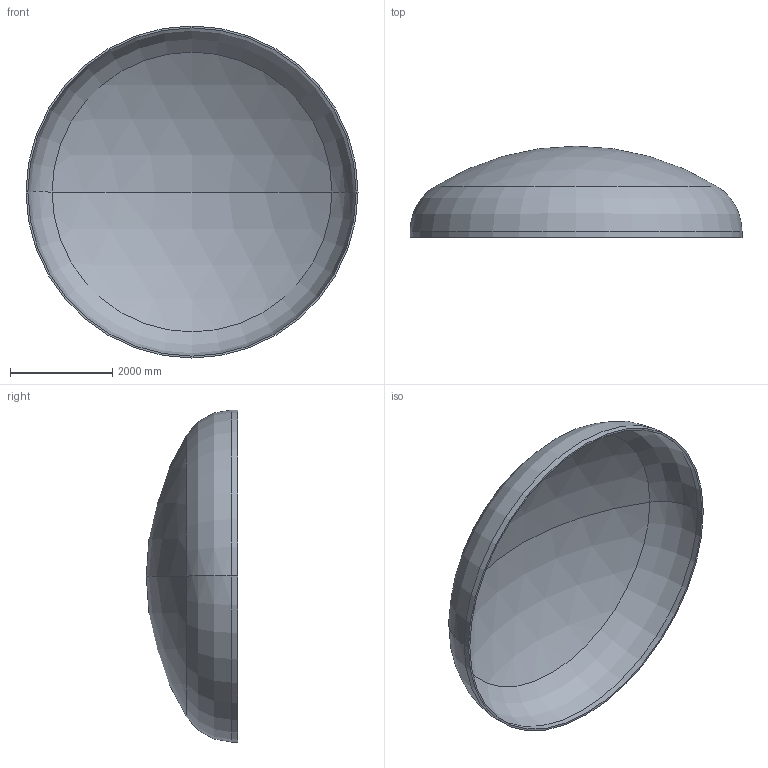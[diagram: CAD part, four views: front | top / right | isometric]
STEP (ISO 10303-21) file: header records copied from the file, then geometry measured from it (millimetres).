
FILE_DESCRIPTION (( 'STEP AP203' ), '1' );
FILE_NAME ('DIN 28013 Korbbogenform_-_Boden DIN 28013 - 6500 x 120 - I - s=37.step', '2016-07-04T10:41:35', ( '' ), ( '' ), 'SwSTEP 2.0', 'SolidWorks 2013', '' );
FILE_SCHEMA (( 'CONFIG_CONTROL_DESIGN' ));
Length unit declared in the file: millimetre
Products named in the file (1): DIN 28013 Korbbogenform_-_Boden DIN 28013 - 6500 x 120 - I - s=37
Bounding box: 6500 x 1787.32 x 6500 mm (x, y, z)
Volume: 1777565491.4 mm3; surface area: 96838703 mm2
Topology: 1 solids, 1 shells, 13 faces, 24 edges, 14 vertices
Faces by surface type: torus 4, cylinder 4, sphere 4, plane 1
Entity records: 407 total; most frequent: DIRECTION 72, CARTESIAN_POINT 52, ORIENTED_EDGE 48, AXIS2_PLACEMENT_3D 34, EDGE_CURVE 24, CIRCLE 20, VERTEX_POINT 14, EDGE_LOOP 14
